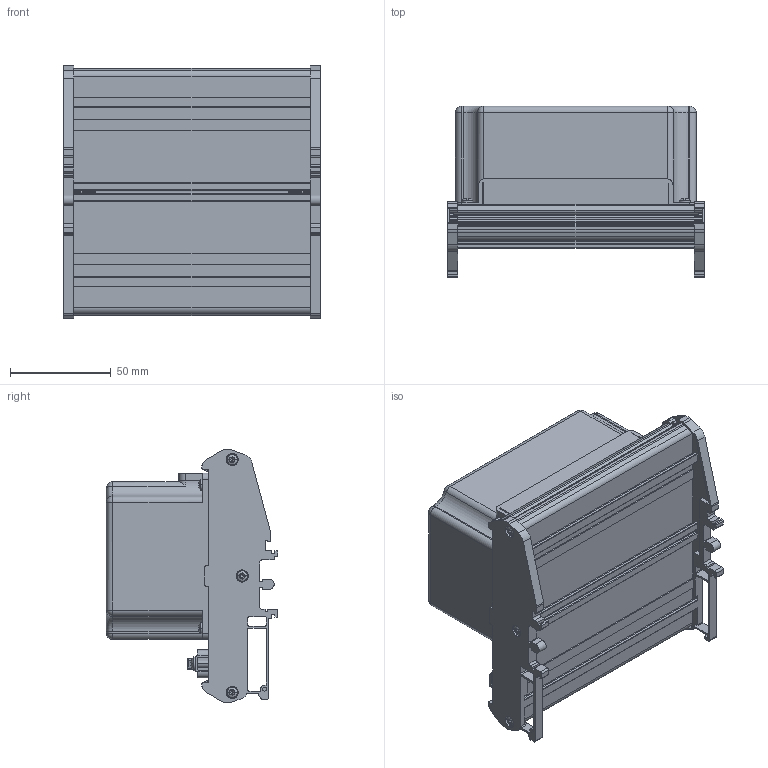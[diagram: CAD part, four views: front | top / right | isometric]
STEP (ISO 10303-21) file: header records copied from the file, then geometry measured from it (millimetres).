
FILE_DESCRIPTION((''),'2;1');
FILE_NAME('CU_TBX-2809','2010-03-17T',('mshaw'),(''),'PRO/ENGINEER BY PARAMETRIC TECHNOLOGY CORPORATION, 2006080','PRO/ENGINEER BY PARAMETRIC TECHNOLOGY CORPORATION, 2006080','');
FILE_SCHEMA(('CONFIG_CONTROL_DESIGN'));
Products named in the file (1): CU_TBX-2809
Bounding box: 127.49 x 85.07 x 125.4 mm (x, y, z)
Volume: 157519.4 mm3; surface area: 156179.5 mm2
Topology: 3 solids, 3 shells, 4263 faces, 11033 edges, 6920 vertices
Faces by surface type: plane 2972, cylinder 997, cone 124, bspline 90, torus 42, sphere 38
Entity records: 144832 total; most frequent: CARTESIAN_POINT 39913, ORIENTED_EDGE 21882, DIRECTION 21099, EDGE_CURVE 10941, VECTOR 8211, LINE 8211, VERTEX_POINT 6977, AXIS2_PLACEMENT_3D 6444
